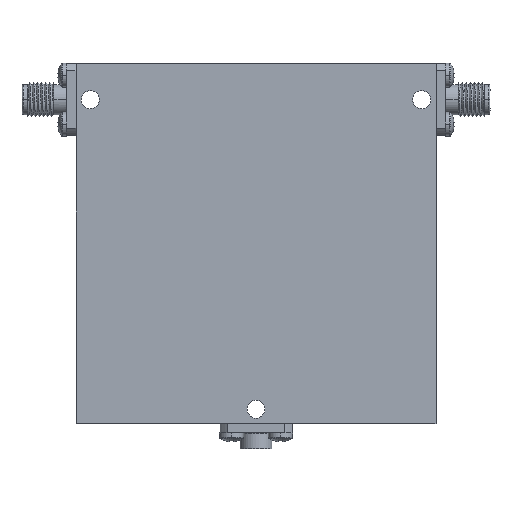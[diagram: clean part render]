
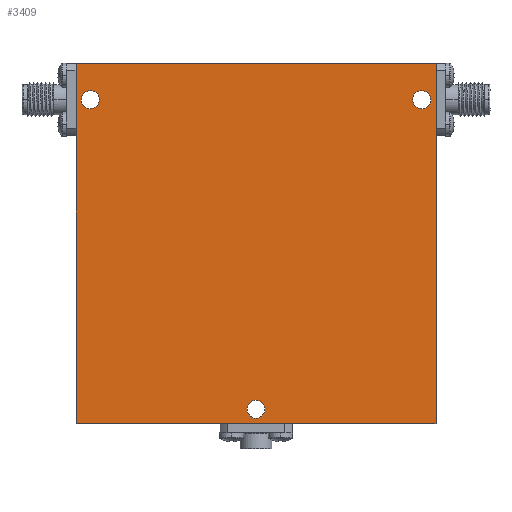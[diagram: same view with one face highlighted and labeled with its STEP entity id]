
A CAD part, top view. The second image highlights one B-rep face of the part: STEP entity #3409.
In plain terms, the highlighted planar face has unit normal (0, 0, 1).
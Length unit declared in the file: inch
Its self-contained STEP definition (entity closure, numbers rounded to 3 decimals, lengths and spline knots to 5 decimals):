
#82 = LINE ( 'NONE', #4435, #3778 ) ;
#249 = CIRCLE ( 'NONE', #2931, 0.0625 ) ;
#261 = DIRECTION ( 'NONE',  ( -1., 0., 0. ) ) ;
#282 = ORIENTED_EDGE ( 'NONE', *, *, #907, .F. ) ;
#367 = CIRCLE ( 'NONE', #1893, 0.0625 ) ;
#374 = CARTESIAN_POINT ( 'NONE',  ( -1.25, 1.25, 0.275 ) ) ;
#517 = DIRECTION ( 'NONE',  ( 0., 0., 1. ) ) ;
#567 = EDGE_LOOP ( 'NONE', ( #1985, #1111 ) ) ;
#592 = DIRECTION ( 'NONE',  ( 1., 0., 0. ) ) ;
#593 = EDGE_CURVE ( 'NONE', #2137, #4031, #3477, .T. ) ;
#606 = DIRECTION ( 'NONE',  ( 1., 0., 0. ) ) ;
#610 = ORIENTED_EDGE ( 'NONE', *, *, #1508, .F. ) ;
#710 = AXIS2_PLACEMENT_3D ( 'NONE', #2946, #3668, #1138 ) ;
#744 = CARTESIAN_POINT ( 'NONE',  ( 1.0875, 1., 0.275 ) ) ;
#747 = CARTESIAN_POINT ( 'NONE',  ( -1.15, 1., 0.275 ) ) ;
#797 = AXIS2_PLACEMENT_3D ( 'NONE', #2541, #815, #1144 ) ;
#815 = DIRECTION ( 'NONE',  ( 0., 0., 1. ) ) ;
#849 = DIRECTION ( 'NONE',  ( 0., 1., 0. ) ) ;
#907 = EDGE_CURVE ( 'NONE', #3259, #4149, #367, .T. ) ;
#1014 = ORIENTED_EDGE ( 'NONE', *, *, #3865, .T. ) ;
#1046 = DIRECTION ( 'NONE',  ( 0., -1., 0. ) ) ;
#1089 = VECTOR ( 'NONE', #1174, 39.37008 ) ;
#1111 = ORIENTED_EDGE ( 'NONE', *, *, #1184, .F. ) ;
#1138 = DIRECTION ( 'NONE',  ( 1., 0., 0. ) ) ;
#1144 = DIRECTION ( 'NONE',  ( 1., 0., 0. ) ) ;
#1164 = DIRECTION ( 'NONE',  ( 0., 0., 1. ) ) ;
#1174 = DIRECTION ( 'NONE',  ( 1., 0., 0. ) ) ;
#1184 = EDGE_CURVE ( 'NONE', #1466, #1655, #249, .T. ) ;
#1336 = LINE ( 'NONE', #1420, #4394 ) ;
#1348 = CARTESIAN_POINT ( 'NONE',  ( -1.2125, 1., 0.275 ) ) ;
#1420 = CARTESIAN_POINT ( 'NONE',  ( -1.25, 1.25, 0.275 ) ) ;
#1423 = AXIS2_PLACEMENT_3D ( 'NONE', #3455, #1677, #606 ) ;
#1466 = VERTEX_POINT ( 'NONE', #744 ) ;
#1508 = EDGE_CURVE ( 'NONE', #4149, #3259, #3878, .T. ) ;
#1535 = DIRECTION ( 'NONE',  ( 1., 0., 0. ) ) ;
#1655 = VERTEX_POINT ( 'NONE', #3635 ) ;
#1677 = DIRECTION ( 'NONE',  ( 0., 0., 1. ) ) ;
#1801 = CARTESIAN_POINT ( 'NONE',  ( -0.0625, -1.15, 0.275 ) ) ;
#1817 = VERTEX_POINT ( 'NONE', #3373 ) ;
#1893 = AXIS2_PLACEMENT_3D ( 'NONE', #2665, #517, #4477 ) ;
#1953 = EDGE_CURVE ( 'NONE', #2896, #1817, #1336, .T. ) ;
#1968 = CARTESIAN_POINT ( 'NONE',  ( 1.25, 1.25, 0.275 ) ) ;
#1985 = ORIENTED_EDGE ( 'NONE', *, *, #2418, .F. ) ;
#2126 = EDGE_CURVE ( 'NONE', #2416, #3785, #2155, .T. ) ;
#2137 = VERTEX_POINT ( 'NONE', #4371 ) ;
#2155 = CIRCLE ( 'NONE', #2417, 0.0625 ) ;
#2211 = CARTESIAN_POINT ( 'NONE',  ( 1.15, 1., 0.275 ) ) ;
#2219 = FACE_BOUND ( 'NONE', #567, .T. ) ;
#2346 = CARTESIAN_POINT ( 'NONE',  ( 0.0625, -1.15, 0.275 ) ) ;
#2402 = VECTOR ( 'NONE', #849, 39.37008 ) ;
#2416 = VERTEX_POINT ( 'NONE', #2867 ) ;
#2417 = AXIS2_PLACEMENT_3D ( 'NONE', #747, #1164, #1535 ) ;
#2418 = EDGE_CURVE ( 'NONE', #1655, #1466, #4325, .T. ) ;
#2436 = FACE_BOUND ( 'NONE', #3886, .T. ) ;
#2499 = EDGE_CURVE ( 'NONE', #1817, #2137, #3813, .T. ) ;
#2532 = DIRECTION ( 'NONE',  ( 1., 0., 0. ) ) ;
#2541 = CARTESIAN_POINT ( 'NONE',  ( 0., -1.15, 0.275 ) ) ;
#2665 = CARTESIAN_POINT ( 'NONE',  ( 0., -1.15, 0.275 ) ) ;
#2835 = CARTESIAN_POINT ( 'NONE',  ( 1.25, 1.25, 0.275 ) ) ;
#2867 = CARTESIAN_POINT ( 'NONE',  ( -1.0875, 1., 0.275 ) ) ;
#2896 = VERTEX_POINT ( 'NONE', #374 ) ;
#2931 = AXIS2_PLACEMENT_3D ( 'NONE', #2211, #3284, #2532 ) ;
#2946 = CARTESIAN_POINT ( 'NONE',  ( 1.15, 1., 0.275 ) ) ;
#3259 = VERTEX_POINT ( 'NONE', #2346 ) ;
#3284 = DIRECTION ( 'NONE',  ( 0., 0., 1. ) ) ;
#3318 = ORIENTED_EDGE ( 'NONE', *, *, #1953, .T. ) ;
#3373 = CARTESIAN_POINT ( 'NONE',  ( -1.25, -1.25, 0.275 ) ) ;
#3409 = ADVANCED_FACE ( 'NONE', ( #2219, #3989, #2436, #4339 ), #4147, .T. ) ;
#3455 = CARTESIAN_POINT ( 'NONE',  ( -1.15, 1., 0.275 ) ) ;
#3477 = LINE ( 'NONE', #1968, #2402 ) ;
#3635 = CARTESIAN_POINT ( 'NONE',  ( 1.2125, 1., 0.275 ) ) ;
#3668 = DIRECTION ( 'NONE',  ( 0., 0., 1. ) ) ;
#3709 = ORIENTED_EDGE ( 'NONE', *, *, #2126, .F. ) ;
#3719 = AXIS2_PLACEMENT_3D ( 'NONE', #3806, #4519, #592 ) ;
#3778 = VECTOR ( 'NONE', #261, 39.37008 ) ;
#3785 = VERTEX_POINT ( 'NONE', #1348 ) ;
#3803 = EDGE_LOOP ( 'NONE', ( #282, #610 ) ) ;
#3806 = CARTESIAN_POINT ( 'NONE',  ( 0., 0., 0.275 ) ) ;
#3813 = LINE ( 'NONE', #4364, #1089 ) ;
#3865 = EDGE_CURVE ( 'NONE', #4031, #2896, #82, .T. ) ;
#3878 = CIRCLE ( 'NONE', #797, 0.0625 ) ;
#3886 = EDGE_LOOP ( 'NONE', ( #3709, #4625 ) ) ;
#3944 = EDGE_CURVE ( 'NONE', #3785, #2416, #3987, .T. ) ;
#3987 = CIRCLE ( 'NONE', #1423, 0.0625 ) ;
#3989 = FACE_BOUND ( 'NONE', #3803, .T. ) ;
#4031 = VERTEX_POINT ( 'NONE', #2835 ) ;
#4147 = PLANE ( 'NONE',  #3719 ) ;
#4149 = VERTEX_POINT ( 'NONE', #1801 ) ;
#4197 = ORIENTED_EDGE ( 'NONE', *, *, #2499, .T. ) ;
#4325 = CIRCLE ( 'NONE', #710, 0.0625 ) ;
#4339 = FACE_OUTER_BOUND ( 'NONE', #4531, .T. ) ;
#4364 = CARTESIAN_POINT ( 'NONE',  ( -1.25, -1.25, 0.275 ) ) ;
#4371 = CARTESIAN_POINT ( 'NONE',  ( 1.25, -1.25, 0.275 ) ) ;
#4383 = ORIENTED_EDGE ( 'NONE', *, *, #593, .T. ) ;
#4394 = VECTOR ( 'NONE', #1046, 39.37008 ) ;
#4435 = CARTESIAN_POINT ( 'NONE',  ( -1.25, 1.25, 0.275 ) ) ;
#4477 = DIRECTION ( 'NONE',  ( 1., 0., 0. ) ) ;
#4519 = DIRECTION ( 'NONE',  ( 0., 0., 1. ) ) ;
#4531 = EDGE_LOOP ( 'NONE', ( #4383, #1014, #3318, #4197 ) ) ;
#4625 = ORIENTED_EDGE ( 'NONE', *, *, #3944, .F. ) ;
